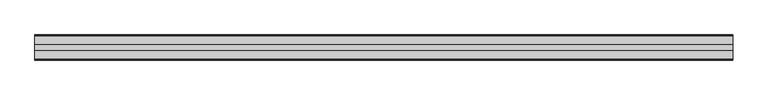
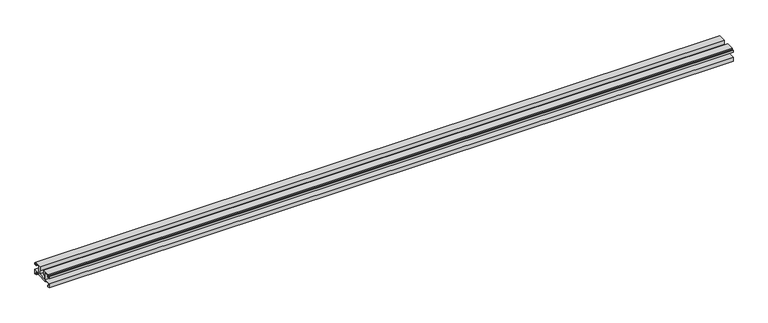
"""IFC4 building model written with IfcOpenShell, lengths in millimetres: proxy geometry, Weiku - Montante - Acoplamento vidro : Weiku - Montante - Acoplamento vidro."""

from ifc_helpers import new_model, si_unit, frame, origin, place, context, project, spatial, polyline, outline, extrude, source, transform, mapped, element, save


def generic_models_0a2b9383(model_context):
    return source(origin(), model_context, "Body", "SweptSolid", [
        extrude(outline(polyline([(35.405, 5.1494), (12.495, 5.1494), (12.495, 6.8004), (2.159, 6.8004), (2.159, 2.6094), (4.0216, 2.6094), (4.0216, 0.0), (-0.0014508, 0.0), (-0.0014508, 8.79), (12.954, 8.79), (12.954, 23.3104), (4.3603, 23.3104), (4.3603, 19.204), (0.0, 19.204), (0.0, 22.8024), (0.9736, 22.8024), (0.9736, 20.3894), (3.175, 20.3894), (3.175, 23.9454), (2.3735496, 23.9454), (2.3735496, 25.3), (17.4836, 25.3), (17.4836, 16.283), (15.4516, 16.283), (15.4516, 8.8), (32.4484, 8.8), (32.4484, 16.283), (30.4164, 16.283), (30.4164, 25.3), (45.5264504, 25.3), (45.5264504, 23.9454), (44.725, 23.9454), (44.725, 20.3894), (46.9264, 20.3894), (46.9264, 22.8024), (47.9, 22.8024), (47.9, 19.204), (43.5397, 19.204), (43.5397, 23.3104), (34.946, 23.3104), (34.946, 8.79), (47.9014508, 8.79), (47.9014508, 0.0), (43.8784, 0.0), (43.8784, 2.6094), (45.741, 2.6094), (45.741, 6.8004), (35.405, 6.8004), (35.405, 5.1494)])), frame((-664.5, 0.0, 0.0), z_axis=(1.0, 0.0, 0.0), x_axis=(0.0, 1.0, 0.0)), (0.0, 0.0, 1.0), 1329.0),
    ])


if __name__ == "__main__":
    model = new_model("IFC4")
    model_context = context("Model", 3, world=origin())
    ifc_project = project(units=[si_unit("LENGTHUNIT", "METRE", prefix="MILLI")], contexts=[model_context])
    site = spatial("IfcSite", under=ifc_project)
    building = spatial("IfcBuilding", under=site)
    placement = place(None, origin())
    generic_models_shape = generic_models_0a2b9383(model_context)
    element("IfcBuildingElementProxy", 1, Name="Weiku - Montante - Acoplamento vidro : Weiku - Montante - Acoplamento vidro", ObjectType="Weiku - Montante - Acoplamento vidro : Weiku - Montante - Acoplamento vidro", at=placement, inside=building, context=model_context, shape_type="MappedRepresentation", body=[
        mapped(generic_models_shape, transform((0.0, 0.0, 0.0), x_axis=(1.0, 0.0, 0.0), y_axis=(0.0, 1.0, 0.0), z_axis=(0.0, 0.0, 1.0))),
    ])
    save(model, "model.ifc")
